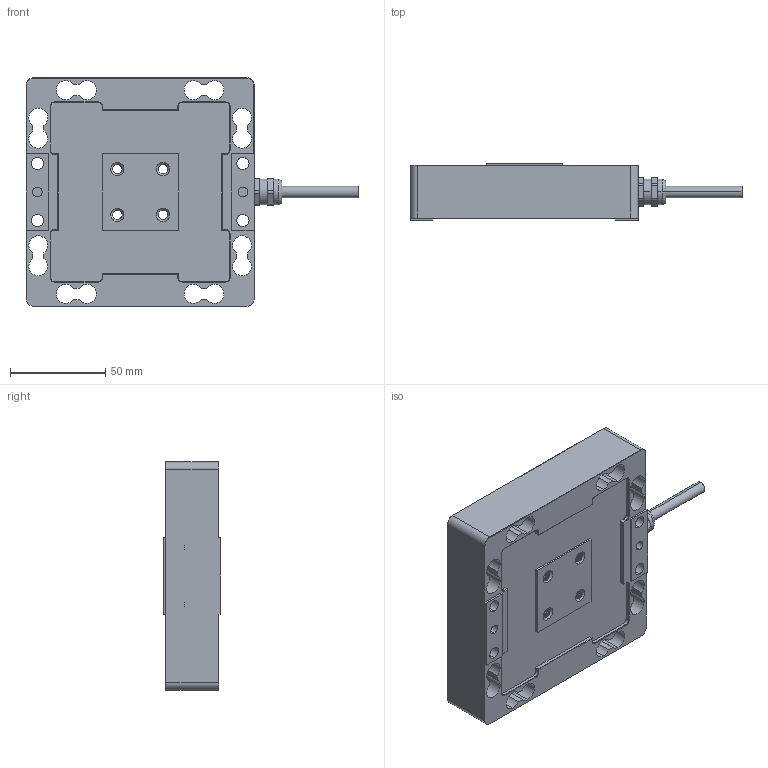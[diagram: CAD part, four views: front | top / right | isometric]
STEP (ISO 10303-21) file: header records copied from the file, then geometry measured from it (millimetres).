
FILE_DESCRIPTION (( 'STEP AP203' ), '1' );
FILE_NAME ('LCM03.STEP', '2024-11-28T08:18:40', ( '' ), ( '' ), 'SwSTEP 2.0', 'SolidWorks 2019', '' );
FILE_SCHEMA (( 'CONFIG_CONTROL_DESIGN' ));
Length unit declared in the file: millimetre
Products named in the file (1): LCM03
Bounding box: 174.5 x 30 x 120 mm (x, y, z)
Volume: 340021.3 mm3; surface area: 61533.7 mm2
Topology: 3 solids, 3 shells, 625 faces, 1691 edges, 1094 vertices
Faces by surface type: cylinder 318, plane 243, cone 46, bspline 16, torus 2
Entity records: 36728 total; most frequent: CARTESIAN_POINT 22019, ORIENTED_EDGE 3382, DIRECTION 2741, EDGE_CURVE 1691, VERTEX_POINT 1094, LINE 965, VECTOR 965, AXIS2_PLACEMENT_3D 888
